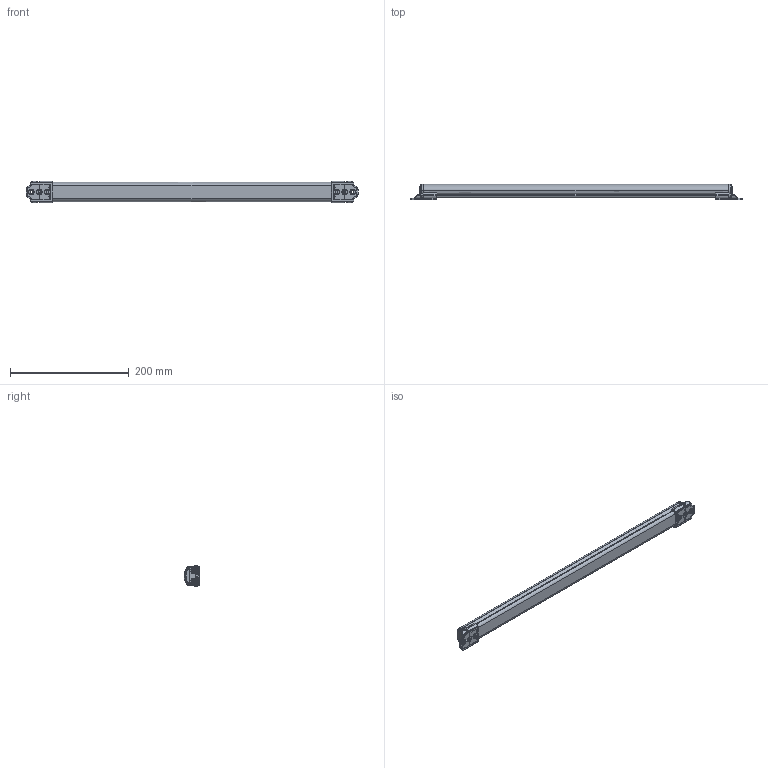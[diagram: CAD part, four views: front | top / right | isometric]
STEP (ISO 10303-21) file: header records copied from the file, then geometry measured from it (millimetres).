
FILE_DESCRIPTION (( 'STEP AP203' ), '1' );
FILE_NAME ('QKR572_3D00154 QCML(C)-500 3D紫賊_220807.STEP', '2022-08-07T06:15:36', ( 'QKR_NOTE119' ), ( '' ), 'SwSTEP 2.0', 'SolidWorks 2019', '' );
FILE_SCHEMA (( 'CONFIG_CONTROL_DESIGN' ));
Length unit declared in the file: millimetre
Products named in the file (1): QKR572_3D00154 QCML(C)-500 3D紫賊_220807
Bounding box: 560.1 x 26.1 x 35.92 mm (x, y, z)
Volume: 347898.6 mm3; surface area: 61759 mm2
Topology: 1 solids, 6 shells, 1143 faces, 3005 edges, 1874 vertices
Faces by surface type: cylinder 359, plane 290, bspline 181, torus 167, cone 110, sphere 36
Entity records: 44686 total; most frequent: CARTESIAN_POINT 19003, ORIENTED_EDGE 5946, DIRECTION 4604, EDGE_CURVE 2973, AXIS2_PLACEMENT_3D 1875, VERTEX_POINT 1874, EDGE_LOOP 1197, B_SPLINE_CURVE_WITH_KNOTS 1147
